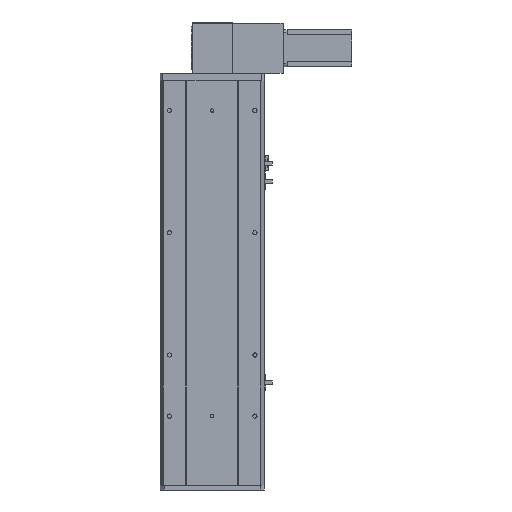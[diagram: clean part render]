
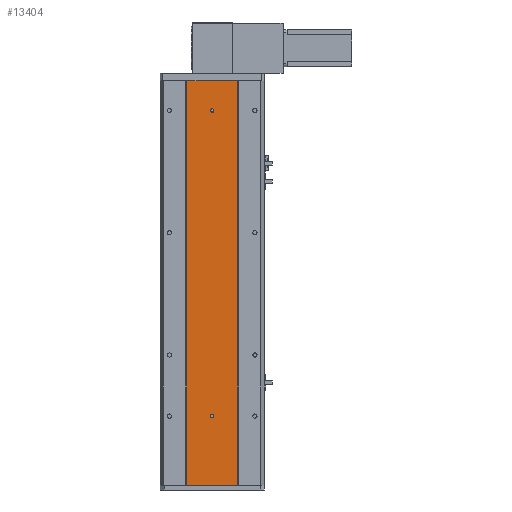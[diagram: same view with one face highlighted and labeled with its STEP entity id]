
A CAD part, front view. The second image highlights one B-rep face of the part: STEP entity #13404.
In plain terms, the highlighted planar face has unit normal (0, -1, 0).
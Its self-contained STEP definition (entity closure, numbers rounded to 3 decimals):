
#252 = AXIS2_PLACEMENT_3D ( 'NONE', #9638, #9600, #9388 ) ;
#341 = CARTESIAN_POINT ( 'NONE',  ( 42.916, 2.57, 0. ) ) ;
#373 = AXIS2_PLACEMENT_3D ( 'NONE', #20520, #20285, #20229 ) ;
#533 = DIRECTION ( 'NONE',  ( 0., 0., 1. ) ) ;
#1895 = ORIENTED_EDGE ( 'NONE', *, *, #23584, .T. ) ;
#2043 = VERTEX_POINT ( 'NONE', #10877 ) ;
#2821 = EDGE_CURVE ( 'NONE', #12578, #21013, #20027, .T. ) ;
#2918 = CARTESIAN_POINT ( 'NONE',  ( 85., 2.57, 110. ) ) ;
#2923 = FACE_OUTER_BOUND ( 'NONE', #21565, .T. ) ;
#4876 = DIRECTION ( 'NONE',  ( 0., 1., 0. ) ) ;
#5005 = VERTEX_POINT ( 'NONE', #2918 ) ;
#5264 = EDGE_CURVE ( 'NONE', #9402, #26950, #15610, .T. ) ;
#5866 = ORIENTED_EDGE ( 'NONE', *, *, #6562, .F. ) ;
#6562 = EDGE_CURVE ( 'NONE', #2043, #21117, #8843, .T. ) ;
#7779 = CARTESIAN_POINT ( 'NONE',  ( 126.916, 2.57, 662. ) ) ;
#8130 = LINE ( 'NONE', #20851, #18832 ) ;
#8597 = CARTESIAN_POINT ( 'NONE',  ( 85., 2.57, 613. ) ) ;
#8725 = DIRECTION ( 'NONE',  ( 0., 0., 1. ) ) ;
#8817 = DIRECTION ( 'NONE',  ( 0., 1., 0. ) ) ;
#8843 = LINE ( 'NONE', #341, #24522 ) ;
#9388 = DIRECTION ( 'NONE',  ( 0., 0., 1. ) ) ;
#9402 = VERTEX_POINT ( 'NONE', #22634 ) ;
#9496 = ORIENTED_EDGE ( 'NONE', *, *, #2821, .T. ) ;
#9600 = DIRECTION ( 'NONE',  ( 0., 1., 0. ) ) ;
#9638 = CARTESIAN_POINT ( 'NONE',  ( 85., 2.57, 613. ) ) ;
#9658 = CARTESIAN_POINT ( 'NONE',  ( 85., 2.57, 616. ) ) ;
#10248 = EDGE_CURVE ( 'NONE', #26950, #21117, #19050, .T. ) ;
#10335 = CIRCLE ( 'NONE', #24657, 3. ) ;
#10877 = CARTESIAN_POINT ( 'NONE',  ( 42.916, 2.57, 0. ) ) ;
#11472 = EDGE_LOOP ( 'NONE', ( #20804, #1895 ) ) ;
#12463 = CARTESIAN_POINT ( 'NONE',  ( 42.916, 2.57, 662. ) ) ;
#12578 = VERTEX_POINT ( 'NONE', #9658 ) ;
#13404 = ADVANCED_FACE ( 'NONE', ( #27082, #25123, #2923 ), #20409, .F. ) ;
#13474 = ORIENTED_EDGE ( 'NONE', *, *, #5264, .T. ) ;
#15141 = EDGE_CURVE ( 'NONE', #21013, #12578, #16081, .T. ) ;
#15465 = VERTEX_POINT ( 'NONE', #26599 ) ;
#15610 = LINE ( 'NONE', #24195, #20649 ) ;
#15718 = EDGE_CURVE ( 'NONE', #5005, #15465, #25328, .T. ) ;
#15843 = CARTESIAN_POINT ( 'NONE',  ( 85., 2.57, 610. ) ) ;
#15974 = EDGE_LOOP ( 'NONE', ( #27739, #9496 ) ) ;
#16081 = CIRCLE ( 'NONE', #252, 3. ) ;
#17022 = AXIS2_PLACEMENT_3D ( 'NONE', #8597, #8817, #8725 ) ;
#17790 = CARTESIAN_POINT ( 'NONE',  ( 85., 2.57, 113. ) ) ;
#18394 = VECTOR ( 'NONE', #26121, 1000. ) ;
#18421 = ORIENTED_EDGE ( 'NONE', *, *, #10248, .T. ) ;
#18832 = VECTOR ( 'NONE', #22993, 1000. ) ;
#19050 = LINE ( 'NONE', #26126, #18394 ) ;
#19644 = ORIENTED_EDGE ( 'NONE', *, *, #19977, .F. ) ;
#19952 = DIRECTION ( 'NONE',  ( 0., 0., 1. ) ) ;
#19977 = EDGE_CURVE ( 'NONE', #9402, #2043, #8130, .T. ) ;
#20027 = CIRCLE ( 'NONE', #17022, 3. ) ;
#20229 = DIRECTION ( 'NONE',  ( 0., 0., 1. ) ) ;
#20285 = DIRECTION ( 'NONE',  ( 0., 1., 0. ) ) ;
#20409 = PLANE ( 'NONE',  #373 ) ;
#20520 = CARTESIAN_POINT ( 'NONE',  ( 42.916, 2.57, 0. ) ) ;
#20649 = VECTOR ( 'NONE', #24166, 1000. ) ;
#20804 = ORIENTED_EDGE ( 'NONE', *, *, #15718, .T. ) ;
#20851 = CARTESIAN_POINT ( 'NONE',  ( 42.916, 2.57, 0. ) ) ;
#21013 = VERTEX_POINT ( 'NONE', #15843 ) ;
#21117 = VERTEX_POINT ( 'NONE', #12463 ) ;
#21565 = EDGE_LOOP ( 'NONE', ( #18421, #5866, #19644, #13474 ) ) ;
#22634 = CARTESIAN_POINT ( 'NONE',  ( 126.916, 2.57, 0. ) ) ;
#22993 = DIRECTION ( 'NONE',  ( -1., 0., 0. ) ) ;
#23584 = EDGE_CURVE ( 'NONE', #15465, #5005, #10335, .T. ) ;
#23812 = AXIS2_PLACEMENT_3D ( 'NONE', #26040, #26004, #26287 ) ;
#24166 = DIRECTION ( 'NONE',  ( 0., 0., 1. ) ) ;
#24195 = CARTESIAN_POINT ( 'NONE',  ( 126.916, 2.57, 0. ) ) ;
#24522 = VECTOR ( 'NONE', #533, 1000. ) ;
#24657 = AXIS2_PLACEMENT_3D ( 'NONE', #17790, #4876, #19952 ) ;
#25123 = FACE_BOUND ( 'NONE', #11472, .T. ) ;
#25328 = CIRCLE ( 'NONE', #23812, 3. ) ;
#26004 = DIRECTION ( 'NONE',  ( 0., 1., 0. ) ) ;
#26040 = CARTESIAN_POINT ( 'NONE',  ( 85., 2.57, 113. ) ) ;
#26121 = DIRECTION ( 'NONE',  ( -1., 0., 0. ) ) ;
#26126 = CARTESIAN_POINT ( 'NONE',  ( 42.916, 2.57, 662. ) ) ;
#26287 = DIRECTION ( 'NONE',  ( 0., 0., 1. ) ) ;
#26599 = CARTESIAN_POINT ( 'NONE',  ( 85., 2.57, 116. ) ) ;
#26950 = VERTEX_POINT ( 'NONE', #7779 ) ;
#27082 = FACE_BOUND ( 'NONE', #15974, .T. ) ;
#27739 = ORIENTED_EDGE ( 'NONE', *, *, #15141, .T. ) ;
